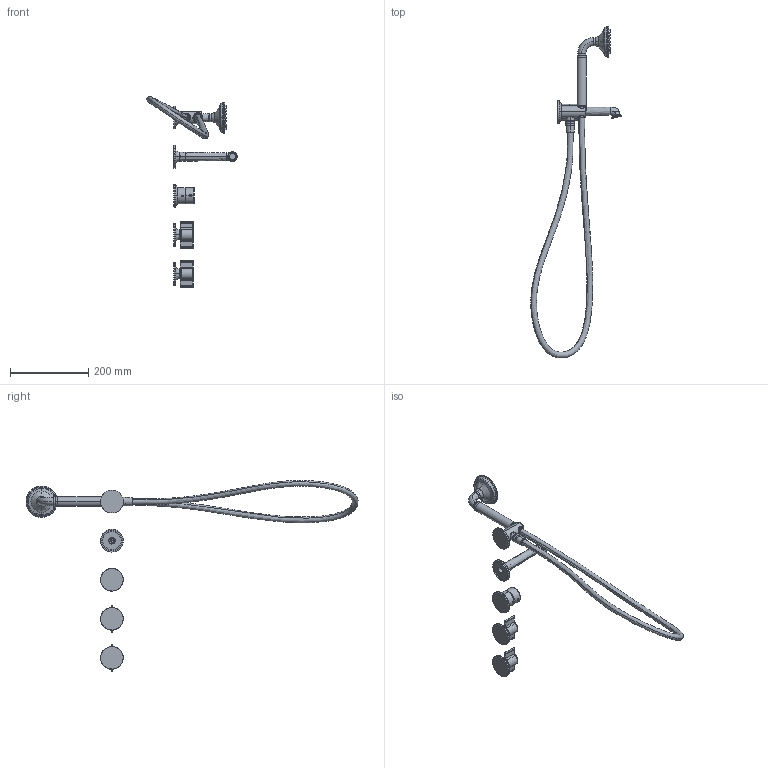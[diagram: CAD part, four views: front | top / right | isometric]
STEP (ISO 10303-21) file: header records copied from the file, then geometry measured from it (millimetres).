
FILE_DESCRIPTION(('STEP AP214'),'2;1');
FILE_NAME('DIS_3D_J418B_R019A.stp','2025-10-23T15:48:27',(''),(''),'2015.2.119','THINKDESIGN','');
FILE_SCHEMA(('AUTOMOTIVE_DESIGN'));
Length unit declared in the file: millimetre
Products named in the file (2): j418b; top
Assembly tree (1 placements, depth 2):
  top
    j418b
Bounding box: 231.4 x 849.98 x 489.16 mm (x, y, z)
Volume: 663685.2 mm3; surface area: 175830.1 mm2
Topology: 6 solids, 6 shells, 1114 faces, 2537 edges, 1612 vertices
Faces by surface type: bspline 558, plane 279, cylinder 277
Entity records: 83752 total; most frequent: CARTESIAN_POINT 41244, ORIENTED_EDGE 5044, DIRECTION 3986, EDGE_CURVE 2522, STYLED_ITEM 2234, PRESENTATION_STYLE_ASSIGNMENT 2229, SURFACE_STYLE_USAGE 2229, SURFACE_SIDE_STYLE 2229
